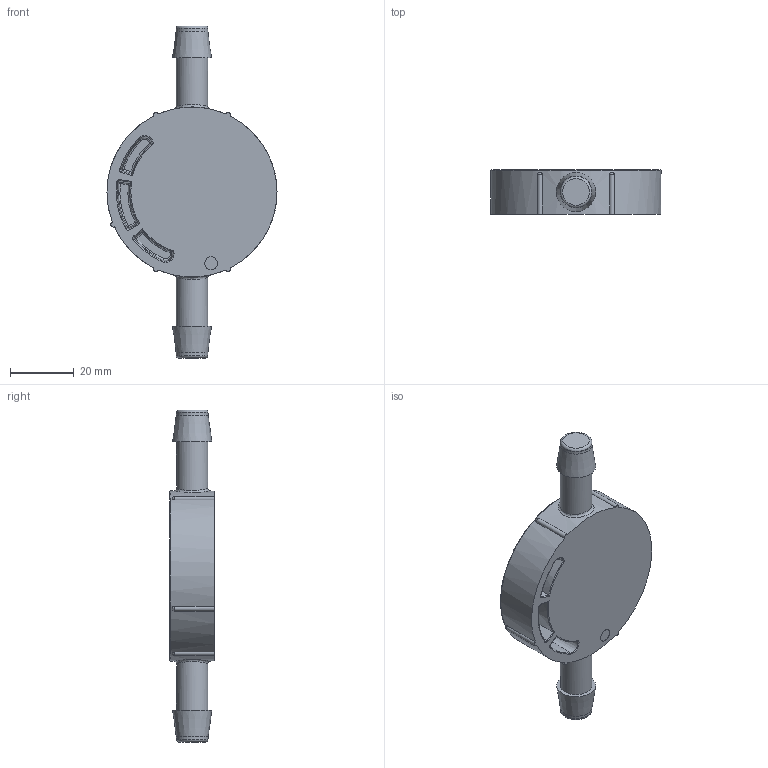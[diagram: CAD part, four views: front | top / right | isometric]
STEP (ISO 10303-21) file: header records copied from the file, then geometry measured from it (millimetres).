
FILE_DESCRIPTION(/* description */ (''),/* implementation_level */ '2;1');
FILE_NAME(/* name */ 'SDO3NZA2A External.stp',/* time_stamp */ '2024-02-12T15:37:24-05:00',/* author */ ('kdone'),/* organization */ (''),/* preprocessor_version */ 'ST-DEVELOPER v19.2',/* originating_system */ 'Autodesk Inventor 2023',/* authorisation */ '');
FILE_SCHEMA (('AUTOMOTIVE_DESIGN { 1 0 10303 214 3 1 1 }'));
Length unit declared in the file: inch
Products named in the file (1): SDO3NZA2A-I
Bounding box: 53.34 x 13.97 x 104.14 mm (x, y, z)
Volume: 34079.4 mm3; surface area: 9508.6 mm2
Topology: 1 solids, 1 shells, 112 faces, 288 edges, 182 vertices
Faces by surface type: plane 26, torus 25, cylinder 22, bspline 20, cone 14, sphere 5
Full cylindrical faces by diameter (mm): 4 x1, 9.881 x4, 53.34 x1
Entity records: 4282 total; most frequent: CARTESIAN_POINT 1650, ORIENTED_EDGE 558, DIRECTION 508, EDGE_CURVE 279, AXIS2_PLACEMENT_3D 213, VERTEX_POINT 180, EDGE_LOOP 123, CIRCLE 116
